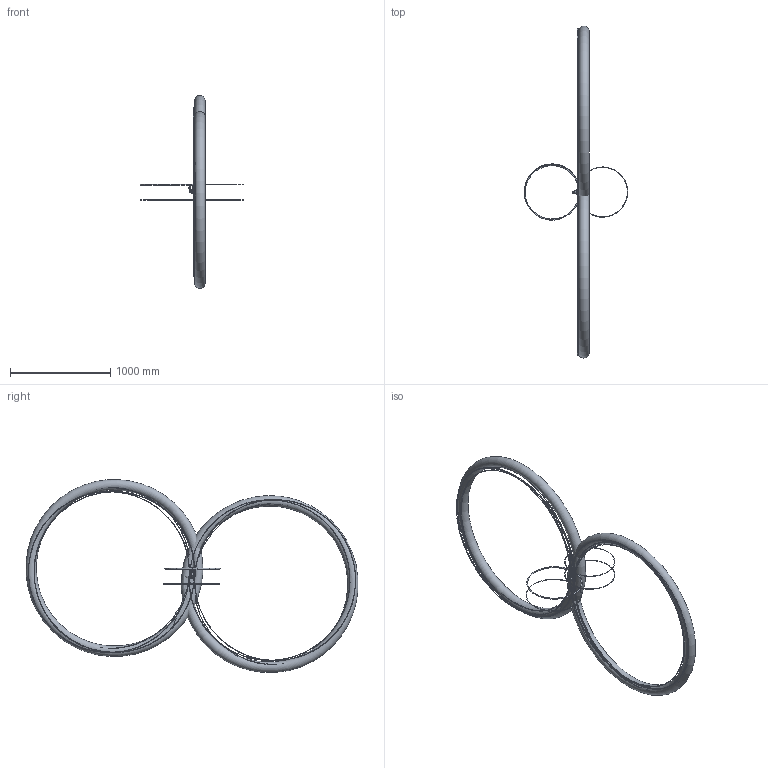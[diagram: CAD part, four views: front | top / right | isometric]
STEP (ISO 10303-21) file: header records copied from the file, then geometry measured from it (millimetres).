
FILE_DESCRIPTION((''),'2;1');
FILE_NAME('1','2014-06-05T',('tony'),(''),'PRO/ENGINEER BY PARAMETRIC TECHNOLOGY CORPORATION, 2008090','PRO/ENGINEER BY PARAMETRIC TECHNOLOGY CORPORATION, 2008090','');
FILE_SCHEMA(('CONFIG_CONTROL_DESIGN'));
Products named in the file (1): 1
Bounding box: 1029.44 x 3303.66 x 1919.25 mm (x, y, z)
Surface area: 4022113.5 mm2 (no closed solid volume)
Topology: 0 solids, 0 shells, 2220 faces, 11974 edges, 11894 vertices
Faces by surface type: bspline 2086, torus 120, sphere 14
Entity records: 190628 total; most frequent: CARTESIAN_POINT 85144, DIRECTION 16537, TRIMMED_CURVE 14399, VECTOR 12529, LINE 12529, DEFINITIONAL_REPRESENTATION 11826, PCURVE 11826, COMPOSITE_CURVE_SEGMENT 11826
